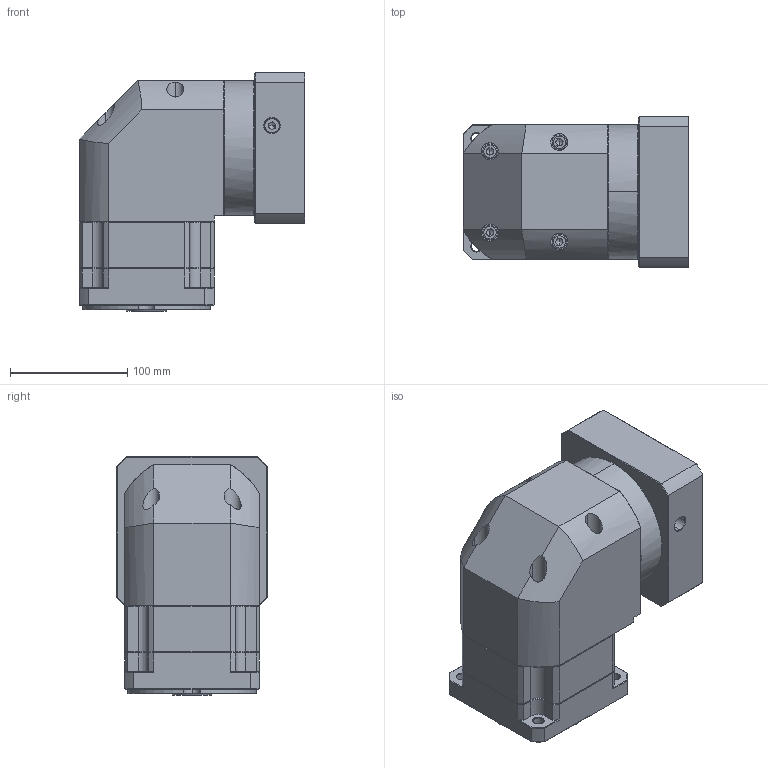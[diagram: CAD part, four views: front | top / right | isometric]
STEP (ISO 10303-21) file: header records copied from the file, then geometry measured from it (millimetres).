
FILE_DESCRIPTION (( 'STEP AP214' ), '1' );
FILE_NAME ('ZBR115A-K25-L1-P2-19-110-145-M8.step', '2023-08-26T12:41:36', ( '' ), ( '' ), 'SwSTEP 2.0', 'SolidWorks 2016', '' );
FILE_SCHEMA (( 'AUTOMOTIVE_DESIGN' ));
Length unit declared in the file: millimetre
Products named in the file (1): ZBR115A-K25-L1-P2-19-110-145-M8
Bounding box: 192.4 x 128 x 203 mm (x, y, z)
Volume: 2999021 mm3; surface area: 251821.3 mm2
Topology: 6 solids, 6 shells, 2324 faces, 6081 edges, 3861 vertices
Faces by surface type: plane 1132, bspline 416, cylinder 406, cone 362, torus 8
Entity records: 122610 total; most frequent: CARTESIAN_POINT 43290, ORIENTED_EDGE 12106, DIRECTION 9579, EDGE_CURVE 6053, VECTOR 3937, LINE 3937, VERTEX_POINT 3861, AXIS2_PLACEMENT_3D 2821
